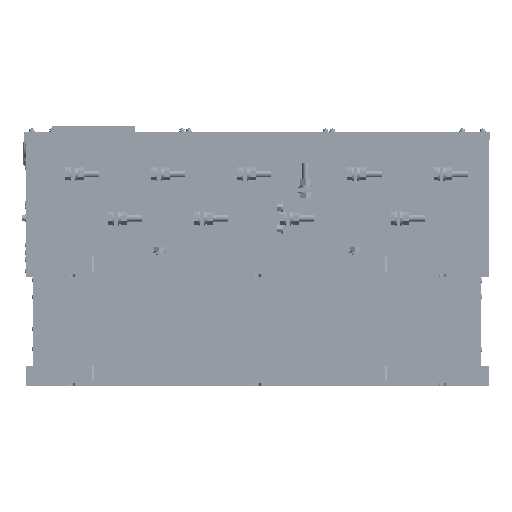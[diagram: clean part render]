
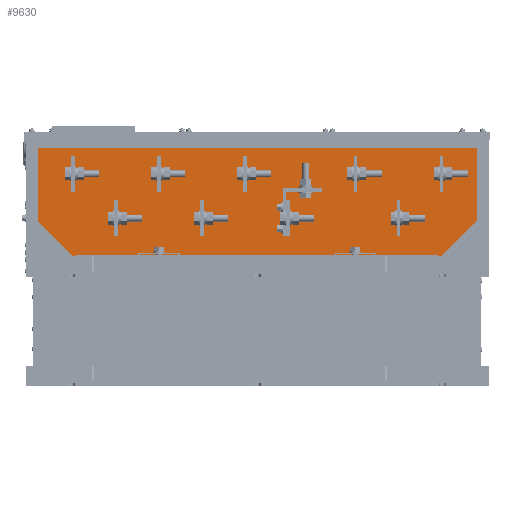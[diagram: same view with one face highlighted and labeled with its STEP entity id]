
A CAD part, front view. The second image highlights one B-rep face of the part: STEP entity #9630.
In plain terms, the highlighted planar face has unit normal (0, -1, 0).
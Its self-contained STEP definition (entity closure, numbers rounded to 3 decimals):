
#1355=DIRECTION('',(0.,0.,-1.));
#1356=VECTOR('',#1355,236.8);
#1357=CARTESIAN_POINT('',(-377.5,-335.,409.8));
#1358=LINE('',#1357,#1356);
#1371=DIRECTION('',(-1.,0.,0.));
#1372=VECTOR('',#1371,755.);
#1373=CARTESIAN_POINT('',(377.5,-335.,409.8));
#1374=LINE('',#1373,#1372);
#1375=DIRECTION('',(0.,0.,-1.));
#1376=VECTOR('',#1375,236.8);
#1377=CARTESIAN_POINT('',(377.5,-335.,409.8));
#1378=LINE('',#1377,#1376);
#1403=DIRECTION('',(-1.,0.,0.));
#1404=VECTOR('',#1403,755.);
#1405=CARTESIAN_POINT('',(377.5,-335.,173.));
#1406=LINE('',#1405,#1404);
#7266=CARTESIAN_POINT('',(377.5,-335.,173.));
#7268=VERTEX_POINT('',#7266);
#7269=CARTESIAN_POINT('',(-377.5,-335.,173.));
#7270=VERTEX_POINT('',#7269);
#7357=CARTESIAN_POINT('',(377.5,-335.,409.8));
#7358=CARTESIAN_POINT('',(-377.5,-335.,409.8));
#7359=VERTEX_POINT('',#7357);
#7360=VERTEX_POINT('',#7358);
#9617=CARTESIAN_POINT('',(377.5,-335.,429.5));
#9618=DIRECTION('',(0.,1.,0.));
#9619=DIRECTION('',(-1.,0.,0.));
#9620=AXIS2_PLACEMENT_3D('',#9617,#9618,#9619);
#9621=PLANE('',#9620);
#9623=ORIENTED_EDGE('',*,*,#9622,.F.);
#9624=ORIENTED_EDGE('',*,*,#9605,.T.);
#9626=ORIENTED_EDGE('',*,*,#9625,.T.);
#9627=ORIENTED_EDGE('',*,*,#9578,.F.);
#9628=EDGE_LOOP('',(#9623,#9624,#9626,#9627));
#9629=FACE_OUTER_BOUND('',#9628,.F.);
#9630=ADVANCED_FACE('',(#9629),#9621,.F.);
#9578=EDGE_CURVE('',#7360,#7270,#1358,.T.);
#9605=EDGE_CURVE('',#7359,#7268,#1378,.T.);
#9622=EDGE_CURVE('',#7359,#7360,#1374,.T.);
#9625=EDGE_CURVE('',#7268,#7270,#1406,.T.);
